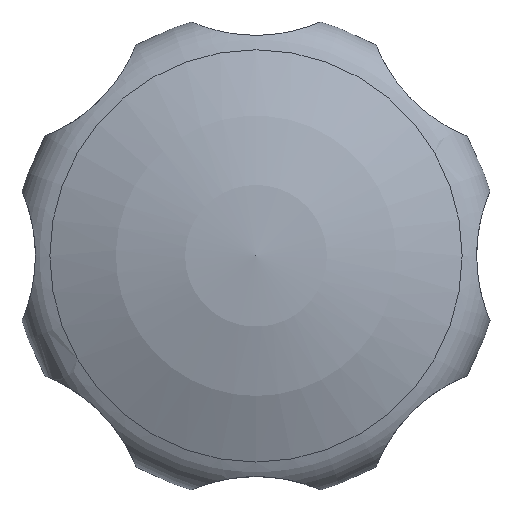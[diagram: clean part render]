
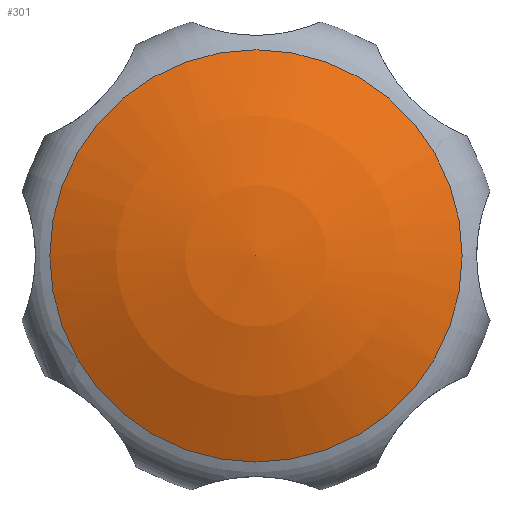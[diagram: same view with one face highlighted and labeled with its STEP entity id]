
A CAD part, top view. The second image highlights one B-rep face of the part: STEP entity #301.
In plain terms, the highlighted spherical face has radius 58.056 mm.
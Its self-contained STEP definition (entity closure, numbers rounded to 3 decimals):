
#263=CARTESIAN_POINT('',(0.,25.5,32.5));
#264=VERTEX_POINT('',#263);
#271=CARTESIAN_POINT('',(0.,0.,32.5));
#272=DIRECTION('',(0.,1.,0.));
#273=DIRECTION('',(0.,0.,1.));
#274=AXIS2_PLACEMENT_3D('',#271,#273,#272);
#275=CIRCLE('',#274,25.5);
#276=EDGE_CURVE('',#264,#264,#275,.T.);
#283=CARTESIAN_POINT('',(0.,0.,-19.656));
#284=DIRECTION('',(0.,1.,0.));
#285=DIRECTION('',(0.,0.,1.));
#286=AXIS2_PLACEMENT_3D('',#283,#285,#284);
#287=SPHERICAL_SURFACE('',#286,58.056);
#288=CARTESIAN_POINT('',(0.,0.,38.4));
#289=VERTEX_POINT('',#288);
#290=CARTESIAN_POINT('',(0.,0.,-19.656));
#291=DIRECTION('',(0.,0.439,0.898));
#292=DIRECTION('',(1.,0.,0.));
#293=AXIS2_PLACEMENT_3D('',#290,#292,#291);
#294=CIRCLE('',#293,58.056);
#295=EDGE_CURVE('',#264,#289,#294,.T.);
#296=ORIENTED_EDGE('E121',*,*,#295,.T.);
#297=ORIENTED_EDGE('E127',*,*,#295,.F.);
#298=ORIENTED_EDGE('E127',*,*,#276,.F.);
#299=EDGE_LOOP('',(#296,#297,#298));
#300=FACE_OUTER_BOUND('',#299,.F.);
#301=ADVANCED_FACE('F69',(#300),#287,.T.);
